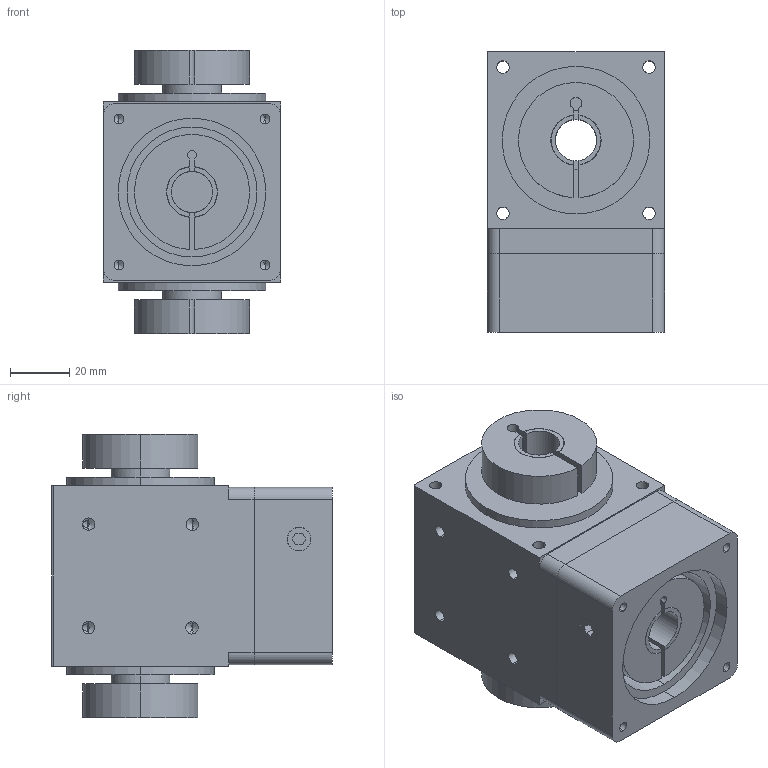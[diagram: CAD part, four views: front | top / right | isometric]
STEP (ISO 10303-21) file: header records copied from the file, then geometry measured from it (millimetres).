
FILE_DESCRIPTION (( 'STEP AP203' ), '1' );
FILE_NAME ('PLT60-C2Ä£ÐÍ£¨14-30 50-3 4-4.5-70).STEP', '2021-11-23T06:30:33', ( '' ), ( '' ), 'SwSTEP 2.0', 'SolidWorks 2016', '' );
FILE_SCHEMA (( 'CONFIG_CONTROL_DESIGN' ));
Length unit declared in the file: millimetre
Products named in the file (1): PLT60-C2模型（14-30 50-3 4-4.5-70)
Bounding box: 60 x 95 x 96 mm (x, y, z)
Volume: 344797.6 mm3; surface area: 64452.7 mm2
Topology: 2 solids, 2 shells, 230 faces, 604 edges, 376 vertices
Faces by surface type: cylinder 114, plane 80, cone 36
Entity records: 7221 total; most frequent: CARTESIAN_POINT 1361, DIRECTION 1278, ORIENTED_EDGE 1160, EDGE_CURVE 580, AXIS2_PLACEMENT_3D 487, VERTEX_POINT 376, LINE 304, VECTOR 304
